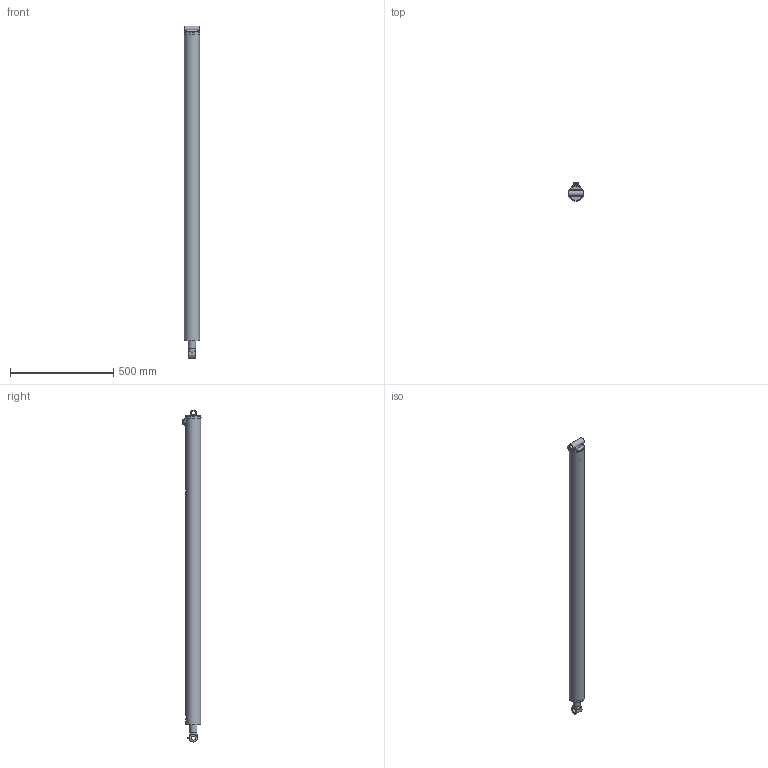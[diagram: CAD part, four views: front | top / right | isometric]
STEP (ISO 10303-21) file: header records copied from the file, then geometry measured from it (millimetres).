
FILE_DESCRIPTION((''),'2;1');
FILE_NAME('\\SRVR-ENG\EngSales\PMC-5454.stp','2013-10-21T08:15:37',('KneiflD'),(''),'Autodesk Inventor 2012','Autodesk Inventor 2012','');
FILE_SCHEMA(('AUTOMOTIVE_DESIGN { 1 0 10303 214 1 1 1 1 }'));
Length unit declared in the file: inch
Products named in the file (18): PMC-5454; 061300146; 051300176; 161300005; 200014303; 210300144; B&TWeldVest; PortWeldVest; X-tube Weld; 081300356; 020700184; 010700677; 210300202; Rod Weld; 071300016; 220000208; 270010002; 230001250
Assembly tree (17 placements, depth 3):
  PMC-5454
    061300146
      051300176
      161300005
      200014303
      210300144
      B&TWeldVest
      PortWeldVest
      X-tube Weld
    081300356
    020700184
      010700677
      210300202
      Rod Weld
    071300016
    220000208
    270010002
    230001250
Bounding box: 76.2 x 87.97 x 1608.12 mm (x, y, z)
Volume: 3250540.9 mm3; surface area: 905172.2 mm2
Topology: 15 solids, 15 shells, 179 faces, 371 edges, 231 vertices
Faces by surface type: plane 62, cylinder 57, cone 27, torus 25, bspline 7, sphere 1
Full cylindrical faces by diameter (mm): 2.794 x2, 5.41 x1, 8.839 x1, 9.525 x1, 9.855 x1, 14.3 x1, 17.323 x1, 18.999 x1, 19.126 x1, 19.558 x1, 19.837 x1, 19.844 x1, 21.615 x1, 25.4 x2, 28.575 x1, 34.925 x1, 35.001 x2, 38.1 x1, 38.71 x1, 41.275 x2, 42.85 x1, 48.768 x1, 54.051 x1, 54.864 x1, 56.032 x1, 58.725 x1, 63.017 x2, 63.246 x2, 63.271 x1, 63.5 x2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
Entity records: 5831 total; most frequent: CARTESIAN_POINT 1893, DIRECTION 777, ORIENTED_EDGE 530, AXIS2_PLACEMENT_3D 365, EDGE_LOOP 314, EDGE_CURVE 265, VERTEX_POINT 217, FACE_OUTER_BOUND 179
